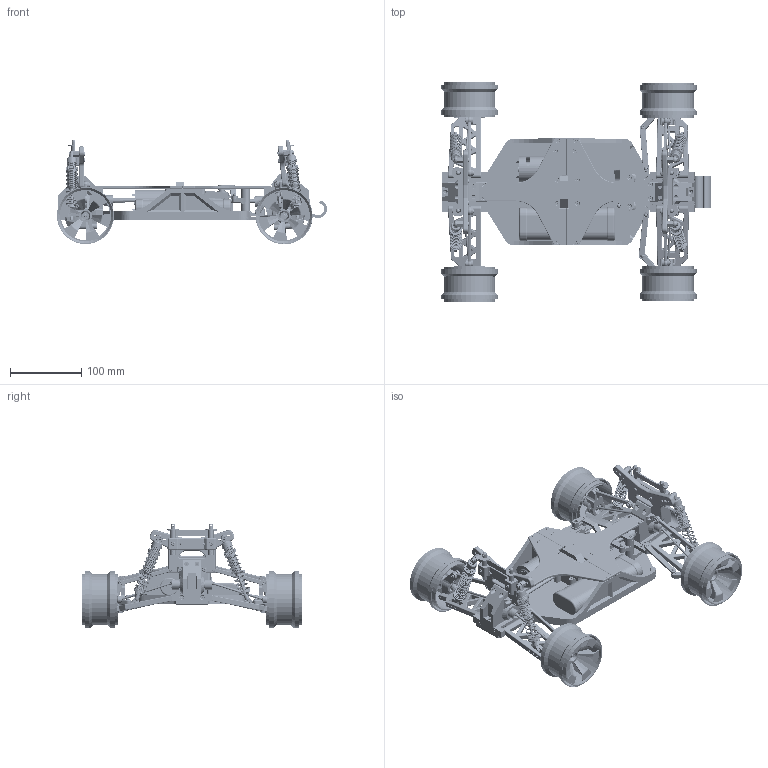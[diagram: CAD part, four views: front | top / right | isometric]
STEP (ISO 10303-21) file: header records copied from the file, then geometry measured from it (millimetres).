
FILE_DESCRIPTION(('STEP AP214'),'1');
FILE_NAME('C:/Users/dn/Open RC/OpenRC Truggy V1/OpenRC Truggy Assy.B.1.stp','2013-04-06T20:25:05',(' '),(' '),'Spatial InterOp 3D',' ',' ');
FILE_SCHEMA(('automotive_design'));
Length unit declared in the file: millimetre
Products named in the file (154): OpenRC Truggy Assy; Left Shield; Right Shield; Servo Arm; Battery; Top Deck Front; Top Deck Rear; Rim; Steering Pin; Hexagon Socket Countersunk Head Screw ISO 10642 - M3 × 10; Hexagon Socket Countersunk Head Screw ISO 10642 - M3 × 8; Hexagon Socket Pan Head Cap Screw ISO 7380 - M3 × 10; Bumper; Hexagon Nut ISO 4032 - M4; Chassie Plate; Chassie Plate Rear; Chassie Plate Front; Front Assembly; Wishbone Pin Holder; Hexagon Socket Countersunk Head Screw ISO 10642 - M3 × 12; Wishbone Pin; Shock Tower Front; Shock Spacer; Hexagon Socket Pan Head Cap Screw ISO 7380 - M3 × 8; Turnbuckle Spacer; Wishbone  Front; Hexagon Nut ISO 4032 - M3; Turnbuckle Front; Hexagon Socket Pan Head Cap Screw ISO 7380 - M3 × 12; Body holder base; Body Holder; Hexagon Socket Pan Head Cap Screw ISO 7380 - M3 × 6; Pin 2x10; Wheel Spacer; Differential Housing Assy; Front Rear Diff Assy; Bearing 10x15x4; Bevel-Gear-Part1_E1016S40_Mekanex_E1016S40_Mekanex; Central Drive Shaft Joint; Differential Assy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
Assembly tree (289 placements, depth 6):
  OpenRC Truggy Assy
    Left Shield
    Right Shield
    Servo Arm
    Battery
    Top Deck Front
    Top Deck Rear
    Rim  x4
    Steering Pin  x2
    Hexagon Socket Countersunk Head Screw ISO 10642 - M3 × 10  x6
    Hexagon Socket Countersunk Head Screw ISO 10642 - M3 × 8  x35
    Hexagon Socket Pan Head Cap Screw ISO 7380 - M3 × 10  x4
    Bumper
    Hexagon Nut ISO 4032 - M4  x4
    Chassie Plate
      Chassie Plate Rear
      Chassie Plate Front
    Front Assembly
      Wishbone Pin Holder
      Hexagon Socket Countersunk Head Screw ISO 10642 - M3 × 12  x2
      Wishbone Pin  x2
      Shock Tower Front
      Shock Spacer  x2
      Hexagon Socket Pan Head Cap Screw ISO 7380 - M3 × 8  x4
      Turnbuckle Spacer  x2
      Wishbone  Front  x2
      Hexagon Nut ISO 4032 - M3  x4
      Turnbuckle Front  x2
      Hexagon Socket Pan Head Cap Screw ISO 7380 - M3 × 12  x4
      Hexagon Socket Pan Head Cap Screw ISO 7380 - M3 × 10  x2
      Body holder base
      Body Holder
      Hexagon Socket Pan Head Cap Screw ISO 7380 - M3 × 6  x2
      Pin 2x10  x2
      Wheel Spacer  x2
      Differential Housing Assy
        Front Rear Diff Assy
        Front Rear Diff Assy
        Bearing 10x15x4  x2
        Bevel-Gear-Part1_E1016S40_Mekanex_E1016S40_Mekanex
        Hexagon Socket Pan Head Cap Screw ISO 7380 - M3 × 12
        Central Drive Shaft Joint
        Hexagon Nut ISO 4032 - M3  x9
        Hexagon Socket Pan Head Cap Screw ISO 7380 - M3 × 8  x2
        Differential Assy
          Fiff Case.Shape 2
          Axle Shaft  x2
          Bearing 10x15x4  x2
          Hexagon Socket Countersunk Head Screw ISO 10642 - M3 × 12  x2
          Hexagon Socket Countersunk Head Screw ISO 10642 - M3 × 8  x2
          Axle Shaft Cover  x2
          Drive Gear
            Bevel-Gear-Part2_E1016S40_Mekanex_E1016S40_Mekanex
          Diff Gears Assy
            Bevel-Gear-Part1_A1016M16-1_Mekanex_A1016M16-1_Mekanex  x2
            Bevel-Gear-Part2_A1016M16-1_Mekanex_A1016M16-1_Mekanex  x2
            Differential Shaft
      Truggy 100mm Shocks  x2
        Oil Container
        Cap
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Bounding box: 378.75 x 309.08 x 146.79 mm (x, y, z)
Volume: 1062734.6 mm3; surface area: 731054.8 mm2
Topology: 341 solids, 351 shells, 13999 faces, 36767 edges, 23353 vertices
Faces by surface type: plane 4567, cylinder 4016, cone 2028, bspline 1562, torus 1044, sphere 612, extrusion 170
Full cylindrical faces by diameter (mm): 6.023 x4
Entity records: 248764 total; most frequent: CARTESIAN_POINT 86277, ORIENTED_EDGE 25322, DIRECTION 25248, EDGE_CURVE 12661, AXIS2_PLACEMENT_3D 9723, VERTEX_POINT 8131, VECTOR 5802, LINE 5632
